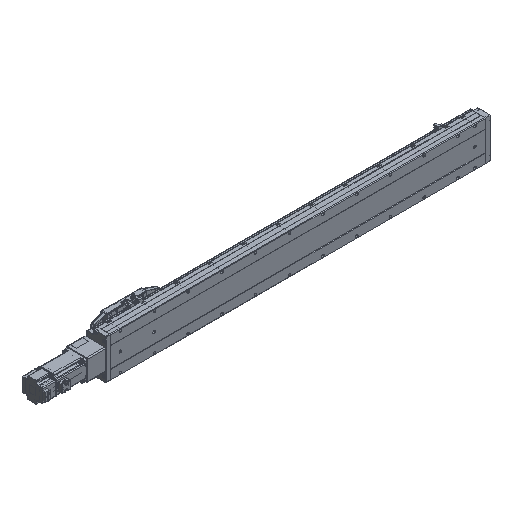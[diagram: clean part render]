
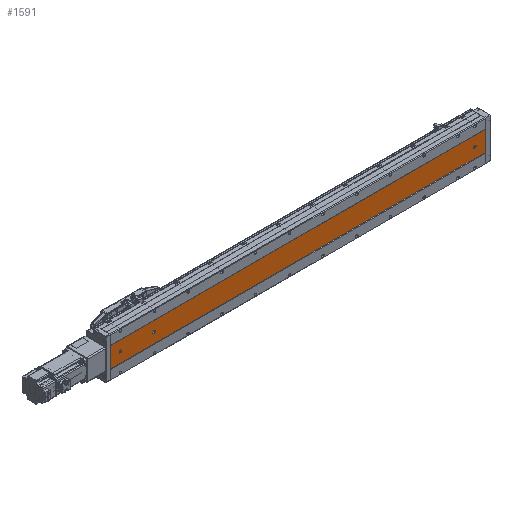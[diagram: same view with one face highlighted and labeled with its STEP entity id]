
A CAD part, isometric view. The second image highlights one B-rep face of the part: STEP entity #1591.
In plain terms, the highlighted planar face has unit normal (0, -1, 0).
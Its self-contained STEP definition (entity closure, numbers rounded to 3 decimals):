
#418 = VERTEX_POINT ( 'NONE', #30766 ) ;
#664 = CARTESIAN_POINT ( 'NONE',  ( -36.392, -52.848, 30. ) ) ;
#1591 = ADVANCED_FACE ( 'NONE', ( #9340, #85950, #56864, #64950 ), #31885, .F. ) ;
#2759 = DIRECTION ( 'NONE',  ( 0., 0., 1. ) ) ;
#3086 = CARTESIAN_POINT ( 'NONE',  ( -9.892, -52.848, 1111. ) ) ;
#4110 = VERTEX_POINT ( 'NONE', #664 ) ;
#4318 = EDGE_CURVE ( 'NONE', #56618, #94768, #69738, .T. ) ;
#4751 = ORIENTED_EDGE ( 'NONE', *, *, #36645, .T. ) ;
#6034 = CARTESIAN_POINT ( 'NONE',  ( -36.392, -52.848, 32. ) ) ;
#6477 = CARTESIAN_POINT ( 'NONE',  ( -69.892, -52.848, 0. ) ) ;
#7255 = AXIS2_PLACEMENT_3D ( 'NONE', #86810, #78961, #34574 ) ;
#8736 = VERTEX_POINT ( 'NONE', #56770 ) ;
#8759 = ORIENTED_EDGE ( 'NONE', *, *, #44359, .T. ) ;
#9340 = FACE_BOUND ( 'NONE', #51942, .T. ) ;
#9580 = EDGE_CURVE ( 'NONE', #40814, #26451, #53947, .T. ) ;
#17900 = DIRECTION ( 'NONE',  ( 0., 1., 0. ) ) ;
#18105 = CARTESIAN_POINT ( 'NONE',  ( -39.892, -52.848, 26.5 ) ) ;
#18434 = ORIENTED_EDGE ( 'NONE', *, *, #67953, .T. ) ;
#20133 = CARTESIAN_POINT ( 'NONE',  ( -36.392, -52.848, 1111. ) ) ;
#20899 = EDGE_CURVE ( 'NONE', #56184, #66772, #93549, .T. ) ;
#22360 = EDGE_CURVE ( 'NONE', #8736, #75560, #75753, .T. ) ;
#22450 = CIRCLE ( 'NONE', #95002, 3.5 ) ;
#22627 = CIRCLE ( 'NONE', #49188, 3.5 ) ;
#23064 = ORIENTED_EDGE ( 'NONE', *, *, #65704, .T. ) ;
#24599 = VECTOR ( 'NONE', #51819, 1000. ) ;
#24767 = DIRECTION ( 'NONE',  ( 0., 0., 1. ) ) ;
#25363 = CARTESIAN_POINT ( 'NONE',  ( -9.892, -52.848, 1111. ) ) ;
#26451 = VERTEX_POINT ( 'NONE', #86784 ) ;
#27665 = VERTEX_POINT ( 'NONE', #3086 ) ;
#29180 = CARTESIAN_POINT ( 'NONE',  ( -39.892, -52.848, 32. ) ) ;
#29579 = EDGE_CURVE ( 'NONE', #27665, #81901, #42476, .T. ) ;
#30766 = CARTESIAN_POINT ( 'NONE',  ( -43.392, -52.848, 32. ) ) ;
#31392 = ORIENTED_EDGE ( 'NONE', *, *, #42070, .T. ) ;
#31885 = PLANE ( 'NONE',  #59480 ) ;
#33402 = DIRECTION ( 'NONE',  ( 0., 1., 0. ) ) ;
#33759 = LINE ( 'NONE', #36258, #24599 ) ;
#34574 = DIRECTION ( 'NONE',  ( 0., 0., 1. ) ) ;
#35135 = DIRECTION ( 'NONE',  ( 0., 0., 1. ) ) ;
#35390 = DIRECTION ( 'NONE',  ( 0., 0., -1. ) ) ;
#36258 = CARTESIAN_POINT ( 'NONE',  ( -69.892, -52.848, 0. ) ) ;
#36645 = EDGE_CURVE ( 'NONE', #66772, #56184, #22627, .T. ) ;
#38690 = CARTESIAN_POINT ( 'NONE',  ( -39.892, -52.848, 1084.5 ) ) ;
#38715 = LINE ( 'NONE', #66298, #82839 ) ;
#39862 = DIRECTION ( 'NONE',  ( 1., 0., 0. ) ) ;
#40814 = VERTEX_POINT ( 'NONE', #18105 ) ;
#42070 = EDGE_CURVE ( 'NONE', #74549, #4110, #44917, .T. ) ;
#42328 = EDGE_LOOP ( 'NONE', ( #4751, #74939 ) ) ;
#42476 = LINE ( 'NONE', #25363, #84335 ) ;
#44221 = ORIENTED_EDGE ( 'NONE', *, *, #4318, .T. ) ;
#44359 = EDGE_CURVE ( 'NONE', #26451, #418, #38715, .T. ) ;
#44679 = DIRECTION ( 'NONE',  ( 0., 0., 1. ) ) ;
#44917 = LINE ( 'NONE', #20133, #54236 ) ;
#45715 = DIRECTION ( 'NONE',  ( 0., 1., 0. ) ) ;
#47557 = CARTESIAN_POINT ( 'NONE',  ( -39.892, -52.848, 1081. ) ) ;
#48187 = AXIS2_PLACEMENT_3D ( 'NONE', #47557, #54401, #2759 ) ;
#49188 = AXIS2_PLACEMENT_3D ( 'NONE', #72840, #80709, #88184 ) ;
#51819 = DIRECTION ( 'NONE',  ( 1., 0., 0. ) ) ;
#51920 = CARTESIAN_POINT ( 'NONE',  ( -69.892, -52.848, 1111. ) ) ;
#51942 = EDGE_LOOP ( 'NONE', ( #8759, #23064, #31392, #63684, #68755 ) ) ;
#53448 = ORIENTED_EDGE ( 'NONE', *, *, #22360, .T. ) ;
#53947 = CIRCLE ( 'NONE', #66638, 3.5 ) ;
#54236 = VECTOR ( 'NONE', #35390, 1000. ) ;
#54401 = DIRECTION ( 'NONE',  ( 0., 1., 0. ) ) ;
#55156 = DIRECTION ( 'NONE',  ( 0., 0., -1. ) ) ;
#56094 = CARTESIAN_POINT ( 'NONE',  ( -69.892, -52.848, 1111. ) ) ;
#56184 = VERTEX_POINT ( 'NONE', #38690 ) ;
#56611 = CARTESIAN_POINT ( 'NONE',  ( -39.892, -52.848, 977.5 ) ) ;
#56618 = VERTEX_POINT ( 'NONE', #51920 ) ;
#56770 = CARTESIAN_POINT ( 'NONE',  ( -39.892, -52.848, 984.5 ) ) ;
#56864 = FACE_BOUND ( 'NONE', #42328, .T. ) ;
#59039 = CARTESIAN_POINT ( 'NONE',  ( -69.892, -52.848, 1111. ) ) ;
#59480 = AXIS2_PLACEMENT_3D ( 'NONE', #83451, #17900, #24767 ) ;
#63684 = ORIENTED_EDGE ( 'NONE', *, *, #83077, .T. ) ;
#64950 = FACE_OUTER_BOUND ( 'NONE', #77769, .T. ) ;
#65704 = EDGE_CURVE ( 'NONE', #418, #74549, #76858, .T. ) ;
#66298 = CARTESIAN_POINT ( 'NONE',  ( -43.392, -52.848, 1111. ) ) ;
#66638 = AXIS2_PLACEMENT_3D ( 'NONE', #90151, #45715, #90479 ) ;
#66772 = VERTEX_POINT ( 'NONE', #92398 ) ;
#67953 = EDGE_CURVE ( 'NONE', #75560, #8736, #86374, .T. ) ;
#68755 = ORIENTED_EDGE ( 'NONE', *, *, #9580, .T. ) ;
#69738 = LINE ( 'NONE', #56094, #80101 ) ;
#69868 = ORIENTED_EDGE ( 'NONE', *, *, #29579, .F. ) ;
#70162 = EDGE_CURVE ( 'NONE', #56618, #27665, #89570, .T. ) ;
#70976 = ORIENTED_EDGE ( 'NONE', *, *, #84278, .T. ) ;
#71659 = CARTESIAN_POINT ( 'NONE',  ( -9.892, -52.848, 0. ) ) ;
#72840 = CARTESIAN_POINT ( 'NONE',  ( -39.892, -52.848, 1081. ) ) ;
#74549 = VERTEX_POINT ( 'NONE', #6034 ) ;
#74939 = ORIENTED_EDGE ( 'NONE', *, *, #20899, .T. ) ;
#75560 = VERTEX_POINT ( 'NONE', #56611 ) ;
#75753 = CIRCLE ( 'NONE', #7255, 3.5 ) ;
#76858 = CIRCLE ( 'NONE', #83111, 3.5 ) ;
#77165 = DIRECTION ( 'NONE',  ( 0., 0., -1. ) ) ;
#77766 = CARTESIAN_POINT ( 'NONE',  ( -39.892, -52.848, 981. ) ) ;
#77769 = EDGE_LOOP ( 'NONE', ( #70976, #69868, #80335, #44221 ) ) ;
#78961 = DIRECTION ( 'NONE',  ( 0., 1., 0. ) ) ;
#79540 = CARTESIAN_POINT ( 'NONE',  ( -39.892, -52.848, 30. ) ) ;
#80101 = VECTOR ( 'NONE', #55156, 1000. ) ;
#80335 = ORIENTED_EDGE ( 'NONE', *, *, #70162, .F. ) ;
#80425 = EDGE_LOOP ( 'NONE', ( #18434, #53448 ) ) ;
#80709 = DIRECTION ( 'NONE',  ( 0., 1., 0. ) ) ;
#81340 = DIRECTION ( 'NONE',  ( 0., 1., 0. ) ) ;
#81901 = VERTEX_POINT ( 'NONE', #71659 ) ;
#82839 = VECTOR ( 'NONE', #96220, 1000. ) ;
#83077 = EDGE_CURVE ( 'NONE', #4110, #40814, #22450, .T. ) ;
#83111 = AXIS2_PLACEMENT_3D ( 'NONE', #29180, #81340, #44679 ) ;
#83451 = CARTESIAN_POINT ( 'NONE',  ( -69.892, -52.848, 1111. ) ) ;
#84278 = EDGE_CURVE ( 'NONE', #94768, #81901, #33759, .T. ) ;
#84335 = VECTOR ( 'NONE', #77165, 1000. ) ;
#84623 = AXIS2_PLACEMENT_3D ( 'NONE', #77766, #33402, #85268 ) ;
#85268 = DIRECTION ( 'NONE',  ( 0., 0., 1. ) ) ;
#85950 = FACE_BOUND ( 'NONE', #80425, .T. ) ;
#86374 = CIRCLE ( 'NONE', #84623, 3.5 ) ;
#86784 = CARTESIAN_POINT ( 'NONE',  ( -43.392, -52.848, 30. ) ) ;
#86810 = CARTESIAN_POINT ( 'NONE',  ( -39.892, -52.848, 981. ) ) ;
#87058 = DIRECTION ( 'NONE',  ( 0., 1., 0. ) ) ;
#87126 = VECTOR ( 'NONE', #39862, 1000. ) ;
#88184 = DIRECTION ( 'NONE',  ( 0., 0., 1. ) ) ;
#89570 = LINE ( 'NONE', #59039, #87126 ) ;
#90151 = CARTESIAN_POINT ( 'NONE',  ( -39.892, -52.848, 30. ) ) ;
#90479 = DIRECTION ( 'NONE',  ( 0., 0., 1. ) ) ;
#92398 = CARTESIAN_POINT ( 'NONE',  ( -39.892, -52.848, 1077.5 ) ) ;
#93549 = CIRCLE ( 'NONE', #48187, 3.5 ) ;
#94768 = VERTEX_POINT ( 'NONE', #6477 ) ;
#95002 = AXIS2_PLACEMENT_3D ( 'NONE', #79540, #87058, #35135 ) ;
#96220 = DIRECTION ( 'NONE',  ( 0., 0., 1. ) ) ;
